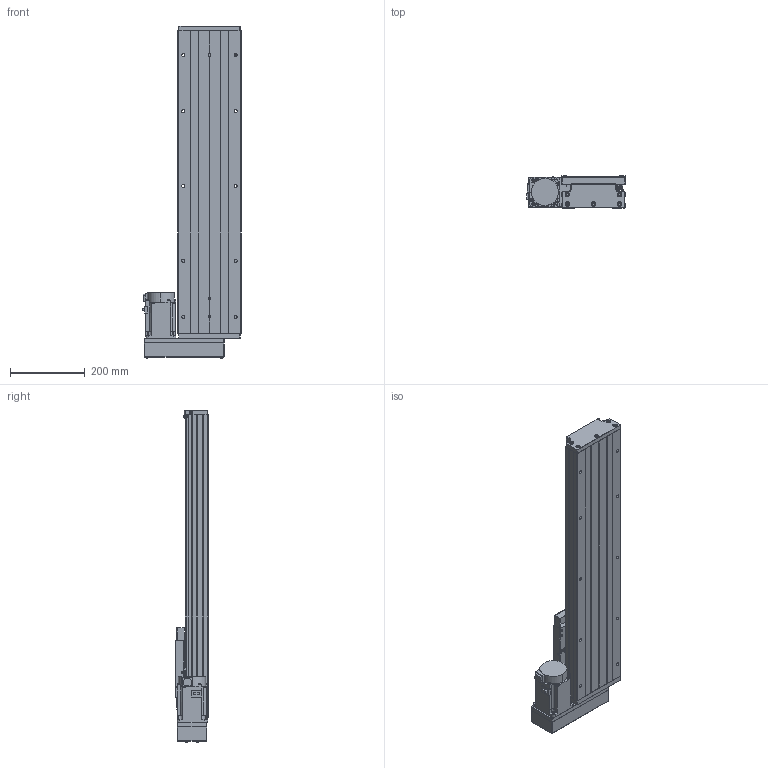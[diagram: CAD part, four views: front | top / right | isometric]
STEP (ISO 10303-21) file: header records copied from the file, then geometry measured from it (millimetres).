
FILE_DESCRIPTION (( 'STEP AP203' ), '1' );
FILE_NAME ('GTH17-550-BL-M75-C4.step', '2023-06-30T12:01:10', ( '微软用户' ), ( '微软中国' ), 'SwSTEP 2.0', 'SolidWorks 2020', '' );
FILE_SCHEMA (( 'CONFIG_CONTROL_DESIGN' ));
Length unit declared in the file: millimetre
Products named in the file (19): GBT77-2000 M3×3; GTH17-015-2_CTHA86-015-2; GBT 70.1-M6¡Á20_M6¡Á20; GTH17-033; GB1155-6X6; GTH17-001_550; GTH17-031; GTH17-550-BL-M75-C4; CTHA60-017; GTH17-002_GTH17-002; GBT 70.2-M3¡Á5_M3¡Á6; GTH17-004; EE_SX911P_R; す晦芛蹟隊 M3℅5; GTH17-005; CTHA60-016; HG-KN73J-S100; GBT 70.1-M3℅5; GBT 70.2-M4¡Á45_M4¡Á35
Assembly tree (58 placements, depth 2):
  GTH17-550-BL-M75-C4
    GTH17-001_550
    GTH17-002_GTH17-002
    GTH17-004
    GTH17-005
    GB1155-6X6  x2
    CTHA60-017  x3
    EE_SX911P_R  x3
    CTHA60-016  x2
    GBT 70.1-M3℅5  x6
    GBT77-2000 M3×3  x6
    GBT 70.1-M6¡Á20_M6¡Á20  x10
    GTH17-031
    GBT 70.2-M3¡Á5_M3¡Á6  x8
    す晦芛蹟隊 M3℅5  x6
    HG-KN73J-S100
    GBT 70.2-M4¡Á45_M4¡Á35  x4
    GTH17-015-2_CTHA86-015-2
    GTH17-033
Bounding box: 264.3 x 87 x 888.2 mm (x, y, z)
Volume: 7599097.1 mm3; surface area: 1096710.6 mm2
Topology: 61 solids, 61 shells, 2439 faces, 5821 edges, 3603 vertices
Faces by surface type: plane 1308, cylinder 658, cone 297, torus 124, sphere 32, bspline 20
Entity records: 44430 total; most frequent: CARTESIAN_POINT 10316, DIRECTION 6421, ORIENTED_EDGE 6354, EDGE_CURVE 3177, AXIS2_PLACEMENT_3D 2186, LINE 2049, VECTOR 2049, VERTEX_POINT 2015
